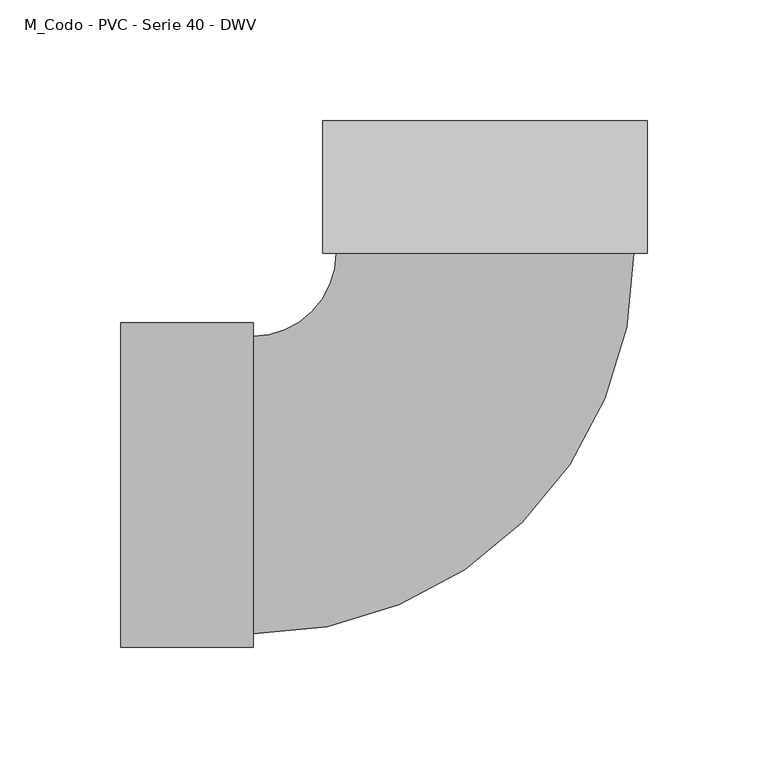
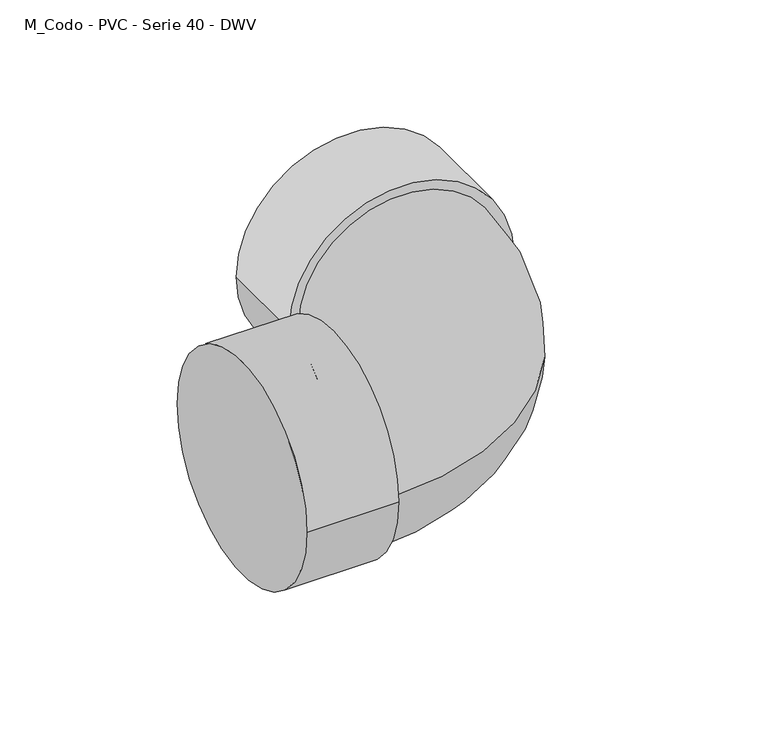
"""IFC4 building model written with IfcOpenShell, lengths in millimetres: pipe fitting geometry, M_Codo - PVC - Serie 40 - DWV : Estándar."""

from ifc_helpers import new_model, si_unit, point, frame, origin, place, context, project, spatial, circle_curve, ellipse_curve, trimmed, source, transform, mapped, element, save
from ifc_brep_helpers import plane_surface, cylinder_surface, revolved_surface, advanced_brep


def m_codo_pvc_serie_40_dwv_fd45ffc9(model_context):
    return source(origin(), model_context, "Body", "AdvancedBrep", [
        advanced_brep(
        [(-151.2140625, -67.3871094, 0.0), (-151.2140625, 67.3871094, 0.0), (-96.2140625, -67.3871094, 0.0), (-96.2140625, 67.3871094, 0.0), (-96.2140625, -61.7640625, 0.0), (-96.2140625, 61.7640625, 0.0), (-61.7640625, 96.2140625, 0.0), (61.7640625, 96.2140625, 0.0), (67.3871094, 96.2140625, 0.0), (-67.3871094, 96.2140625, 0.0), (67.3871094, 151.2140625, 0.0), (-67.3871094, 151.2140625, 0.0)],
        [
            (0, 1, circle_curve(frame((-151.2140625, 0.0, 0.0), z_axis=(-1.0, 0.0, 0.0), x_axis=(0.0, 1.0, 0.0)), 67.3871094)),
            (1, 0, circle_curve(frame((-151.2140625, 0.0, 0.0), z_axis=(-1.0, 0.0, 0.0), x_axis=(0.0, 1.0, 0.0)), 67.3871094)),
            (2, 3, circle_curve(frame((-96.2140625, 0.0, 0.0), z_axis=(1.0, 0.0, 0.0), x_axis=(0.0, 1.0, 0.0)), 67.3871094)),
            (3, 2, circle_curve(frame((-96.2140625, 0.0, 0.0), z_axis=(1.0, 0.0, 0.0), x_axis=(0.0, 1.0, 0.0)), 67.3871094)),
            (4, 5, circle_curve(frame((-96.2140625, 0.0, 0.0), z_axis=(-1.0, 0.0, 0.0), x_axis=(0.0, 1.0, 0.0)), 61.7640625)),
            (5, 4, circle_curve(frame((-96.2140625, 0.0, 0.0), z_axis=(-1.0, 0.0, 0.0), x_axis=(0.0, 1.0, 0.0)), 61.7640625)),
            (0, 2),
            (3, 1),
            (6, 5, circle_curve(frame((-96.2140625, 96.2140625, 0.0), z_axis=(0.0, 0.0, -1.0), x_axis=(0.0, -1.0, 0.0)), 34.45)),
            (4, 7, circle_curve(frame((-96.2140625, 96.2140625, 0.0), z_axis=(0.0, 0.0, 1.0), x_axis=(0.0, -1.0, 0.0)), 157.978125)),
            (7, 6, circle_curve(frame((0.0, 96.2140625, 0.0), z_axis=(0.0, -1.0, 0.0), x_axis=(-1.0, 0.0, 0.0)), 61.7640625)),
            (6, 7, circle_curve(frame((0.0, 96.2140625, 0.0), z_axis=(0.0, -1.0, 0.0), x_axis=(-1.0, 0.0, 0.0)), 61.7640625)),
            (8, 9, circle_curve(frame((0.0, 96.2140625, 0.0), z_axis=(0.0, -1.0, 0.0), x_axis=(-1.0, 0.0, 0.0)), 67.3871094)),
            (9, 8, circle_curve(frame((0.0, 96.2140625, 0.0), z_axis=(0.0, -1.0, 0.0), x_axis=(-1.0, 0.0, 0.0)), 67.3871094)),
            (10, 11, circle_curve(frame((0.0, 151.2140625, 0.0), z_axis=(0.0, 1.0, 0.0), x_axis=(-1.0, 0.0, 0.0)), 67.3871094)),
            (11, 10, circle_curve(frame((0.0, 151.2140625, 0.0), z_axis=(0.0, 1.0, 0.0), x_axis=(-1.0, 0.0, 0.0)), 67.3871094)),
            (8, 10),
            (11, 9),
        ],
        [
            plane_surface(frame((-151.2140625, 0.0, 0.0), z_axis=(-1.0, 0.0, 0.0), x_axis=(0.0, 0.0, 1.0))),
            plane_surface(frame((-96.2140625, 0.0, 0.0), z_axis=(1.0, 0.0, 0.0), x_axis=(0.0, 0.0, 1.0))),
            cylinder_surface(frame((-151.2140625, 0.0, 0.0), z_axis=(-1.0, 0.0, 0.0), x_axis=(0.0, 1.0, 0.0)), 67.3871094),
            revolved_surface(trimmed(ellipse_curve(frame((-96.2140625, 0.0, 0.0), z_axis=(-1.0, 0.0, 0.0), x_axis=(0.0, 1.0, 0.0)), 61.7640625, 61.7640625), [point((-96.2140625, -61.7640625, 0.0))], [point((-96.2140625, 61.7640625, 0.0))], True, "CARTESIAN"), (-96.2140625, 96.2140625, 0.0), (0.0, 0.0, 1.0)),
            revolved_surface(trimmed(ellipse_curve(frame((-96.2140625, 0.0, 0.0), z_axis=(-1.0, 0.0, 0.0), x_axis=(0.0, 1.0, 0.0)), 61.7640625, 61.7640625), [point((-96.2140625, 61.7640625, 0.0))], [point((-96.2140625, -61.7640625, 0.0))], True, "CARTESIAN"), (-96.2140625, 96.2140625, 0.0), (0.0, 0.0, 1.0)),
            plane_surface(frame((0.0, 96.2140625, 0.0), z_axis=(0.0, -1.0, 0.0), x_axis=(0.0, 0.0, 1.0))),
            plane_surface(frame((0.0, 151.2140625, 0.0), z_axis=(0.0, 1.0, 0.0), x_axis=(0.0, 0.0, 1.0))),
            cylinder_surface(frame((0.0, 96.2140625, 0.0), z_axis=(0.0, -1.0, 0.0), x_axis=(-1.0, 0.0, 0.0)), 67.3871094),
        ],
        [
            (0, [[1, 2]]),
            (1, [[3, 4], [5, 6]]),
            (2, [[-1, 7, -4, 8]]),
            (2, [[-2, -8, -3, -7]]),
            (3, [[9, -5, 10, 11]]),
            (4, [[-9, 12, -10, -6]]),
            (5, [[13, 14], [-11, -12]]),
            (6, [[15, 16]]),
            (7, [[-13, 17, -16, 18]]),
            (7, [[-14, -18, -15, -17]]),
        ],
    ),
    ])


if __name__ == "__main__":
    model = new_model("IFC4")
    model_context = context("Model", 3, world=origin())
    ifc_project = project(units=[si_unit("LENGTHUNIT", "METRE", prefix="MILLI")], contexts=[model_context])
    site = spatial("IfcSite", under=ifc_project)
    building = spatial("IfcBuilding", under=site)
    placement = place(None, origin())
    m_codo_pvc_serie_40_dwv_shape = m_codo_pvc_serie_40_dwv_fd45ffc9(model_context)
    element("IfcPipeFitting", 1, ObjectType="M_Codo - PVC - Serie 40 - DWV : Estándar", at=placement, inside=building, context=model_context, shape_type="MappedRepresentation", body=[
        mapped(m_codo_pvc_serie_40_dwv_shape, transform((0.0, 0.0, 0.0), x_axis=(1.0, 0.0, 0.0), y_axis=(0.0, 1.0, 0.0), z_axis=(0.0, 0.0, 1.0))),
    ])
    save(model, "model.ifc")
